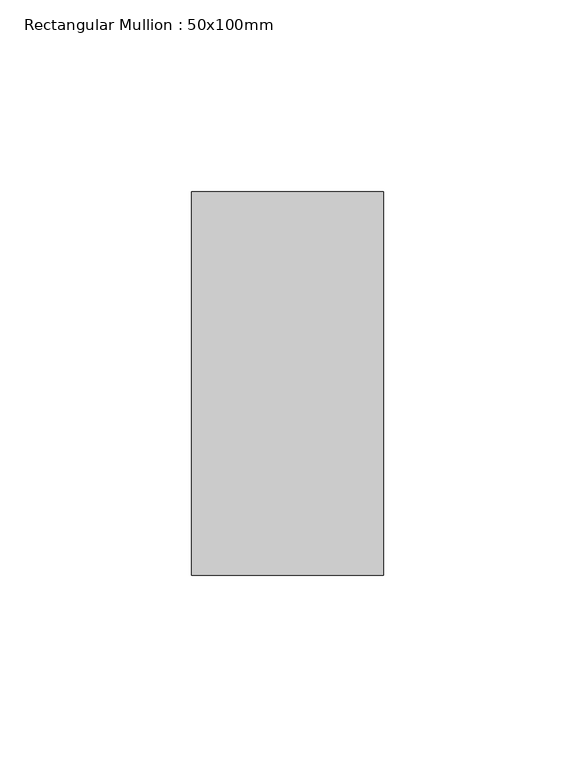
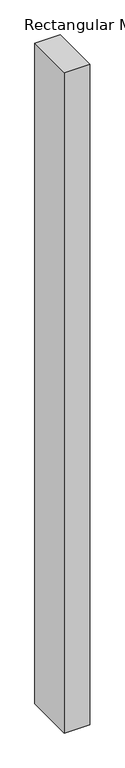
"""IFC4 building model written with IfcOpenShell, lengths in millimetres: member geometry, Rectangular Mullion : 50x100mm."""

import ifcopenshell
import ifcopenshell.guid

model = None  # the IFC model being written
_history = None  # IfcOwnerHistory: only IFC2X3 demands one
_inside = {}  # id of a spatial element -> (the spatial element, [elements in it])
_under = {}  # id of a project, library or spatial element -> (it, [spatial elements below it])
_declared = {}  # id of a project -> (the project, [libraries it declares])
_typed = {}  # id of a type object -> (the type object, [elements of that type])
_made_of = {}  # id of a material, layer set ... -> (it, [elements and type objects made of it])


def new_model(schema):
    """Start an empty IFC model of exactly this schema.

    Asked for "IFC4X3", IfcOpenShell would pick the latest addendum, in which some entities
    have other attributes; the version numbers below select the first issue.
    IFC2X3 requires an IfcOwnerHistory on every rooted entity: one is made here for all.
    """
    global model, _history
    if schema == "IFC4X3":
        model = ifcopenshell.file(schema_version=(4, 3, 0, 0))
    else:
        model = ifcopenshell.file(schema=schema)
    _inside.clear()
    _under.clear()
    _declared.clear()
    _typed.clear()
    _made_of.clear()
    _history = None
    if model.schema == "IFC2X3":
        org = make("IfcOrganization", Name="unknown")
        user = make(
            "IfcPersonAndOrganization",
            ThePerson=make("IfcPerson", FamilyName="unknown"),
            TheOrganization=org,
        )
        app = make(
            "IfcApplication",
            ApplicationDeveloper=org,
            Version="unknown",
            ApplicationFullName="unknown",
            ApplicationIdentifier="unknown",
        )
        _history = make(
            "IfcOwnerHistory",
            OwningUser=user,
            OwningApplication=app,
            ChangeAction="ADDED",
            CreationDate=0,
        )
    return model


def make(cls, **values):
    """One entity of the class cls with the attributes given. An attribute that is None is left unset."""
    return model.create_entity(
        cls, **{name: value for name, value in values.items() if value is not None}
    )


def rooted(cls, **values):
    """An entity with a GlobalId (a new one), such as an element, a storey or a relation."""
    return make(cls, GlobalId=ifcopenshell.guid.new(), OwnerHistory=_history, **values)


def si_unit(unit_type, name, prefix=None):
    """IfcSIUnit, for example si_unit("LENGTHUNIT", "METRE", prefix="MILLI")."""
    return make("IfcSIUnit", UnitType=unit_type, Prefix=prefix, Name=name)


def assignment(units):
    """IfcUnitAssignment: the units of a project."""
    return None if units is None else make("IfcUnitAssignment", Units=units)


def point(xyz):
    """IfcCartesianPoint."""
    return None if xyz is None else make("IfcCartesianPoint", Coordinates=xyz)


def direction(xyz):
    """IfcDirection."""
    return None if xyz is None else make("IfcDirection", DirectionRatios=xyz)


def frame(location, z_axis=None, x_axis=None):
    """IfcAxis2Placement3D, a coordinate frame: its origin and axes. An axis left out is left unset."""
    return make(
        "IfcAxis2Placement3D",
        Location=point(location),
        Axis=direction(z_axis),
        RefDirection=direction(x_axis),
    )


def origin():
    """The frame at (0, 0, 0) with its axes left unset."""
    return frame((0.0, 0.0, 0.0))


def place(relative_to, where):
    """IfcLocalPlacement: puts the frame where relative to a parent placement (None: the world)."""
    return make(
        "IfcLocalPlacement", PlacementRelTo=relative_to, RelativePlacement=where
    )


def context(
    kind, dimensions, precision=None, world=None, true_north=None, identifier=None
):
    """IfcGeometricRepresentationContext, for example the 3D "Model" context."""
    return make(
        "IfcGeometricRepresentationContext",
        ContextIdentifier=identifier,
        ContextType=kind,
        CoordinateSpaceDimension=dimensions,
        Precision=precision,
        WorldCoordinateSystem=world,
        TrueNorth=true_north,
    )


def project(units=None, contexts=None):
    """IfcProject with its units and contexts."""
    return rooted(
        "IfcProject",
        Name="project",
        RepresentationContexts=contexts,
        UnitsInContext=assignment(units),
    )


def spatial(cls, under=None, at=None, **own):
    """A site, building, storey or space (cls), placed at a placement, below another one or the project."""
    s = rooted(cls, ObjectPlacement=at, **own)
    if under is not None:
        _under.setdefault(under.id(), (under, []))[1].append(s)
    return s


def polyline(points):
    """IfcPolyline through the points."""
    return make("IfcPolyline", Points=[point(p) for p in points])


def outline(outer, holes=None, kind="AREA"):
    """IfcArbitraryClosedProfileDef: a profile drawn as a closed curve; with holes, ...WithVoids."""
    if holes is None:
        return make("IfcArbitraryClosedProfileDef", ProfileType=kind, OuterCurve=outer)
    return make(
        "IfcArbitraryProfileDefWithVoids",
        ProfileType=kind,
        OuterCurve=outer,
        InnerCurves=holes,
    )


def extrude(swept, where, along, depth):
    """IfcExtrudedAreaSolid: the profile swept, set in the frame where, extruded along a direction by depth."""
    return make(
        "IfcExtrudedAreaSolid",
        SweptArea=swept,
        Position=where,
        ExtrudedDirection=direction(along),
        Depth=depth,
    )


def shape(context_of_items, identifier, shape_type, items):
    """IfcShapeRepresentation: the items that make up one representation, for example the "Body"."""
    return make(
        "IfcShapeRepresentation",
        ContextOfItems=context_of_items,
        RepresentationIdentifier=identifier,
        RepresentationType=shape_type,
        Items=items,
    )


def source(mapping_origin, context_of_items, identifier, shape_type, items):
    """IfcRepresentationMap: a shape defined once, which mapped items show again and again."""
    return make(
        "IfcRepresentationMap",
        MappingOrigin=mapping_origin,
        MappedRepresentation=shape(context_of_items, identifier, shape_type, items),
    )


def transform(
    local_origin,
    x_axis=None,
    y_axis=None,
    z_axis=None,
    scale=None,
    scale2=None,
    scale3=None,
    uniform=True,
):
    """IfcCartesianTransformationOperator3D, or its non-uniform kind. x_axis, y_axis, z_axis: its Axis1, 2, 3."""
    if uniform:
        return make(
            "IfcCartesianTransformationOperator3D",
            Axis1=direction(x_axis),
            Axis2=direction(y_axis),
            LocalOrigin=point(local_origin),
            Scale=scale,
            Axis3=direction(z_axis),
        )
    return make(
        "IfcCartesianTransformationOperator3DnonUniform",
        Axis1=direction(x_axis),
        Axis2=direction(y_axis),
        LocalOrigin=point(local_origin),
        Scale=scale,
        Axis3=direction(z_axis),
        Scale2=scale2,
        Scale3=scale3,
    )


def mapped(mapping_source, mapping_target):
    """IfcMappedItem: shows the shape of a source again, moved by a transform."""
    return make(
        "IfcMappedItem", MappingSource=mapping_source, MappingTarget=mapping_target
    )


def made_of(thing, what):
    """Note that an element or type object is made of a material, layer set ...; save() writes the relation."""
    if what is not None:
        _made_of.setdefault(what.id(), (what, []))[1].append(thing)
    return thing


def element(
    cls,
    number,
    at=None,
    inside=None,
    cuts=None,
    type_object=None,
    material=None,
    context=None,
    identifier="Body",
    shape_type=None,
    held_by="IfcProductDefinitionShape",
    body=None,
    shapes=None,
    **own,
):
    """One element of the class cls, such as IfcWall. Its Tag is "e" and its number.

    at: its placement. inside: the storey or other place that contains it. cuts: it is an
    opening in that element (IfcRelVoidsElement). A single representation is given by context,
    identifier, shape_type and body (its items); several are given by shapes. held_by: the class
    of the entity that holds the representations. save() writes the other relations.
    """
    e = rooted(cls, Tag="e%d" % number, ObjectPlacement=at, **own)
    if body is not None:
        shapes = [shape(context, identifier, shape_type, body)]
    if shapes is not None:
        e.Representation = make(held_by, Representations=shapes)
    if inside is not None:
        _inside.setdefault(inside.id(), (inside, []))[1].append(e)
    if cuts is not None:
        rooted(
            "IfcRelVoidsElement", RelatingBuildingElement=cuts, RelatedOpeningElement=e
        )
    if type_object is not None:
        _typed.setdefault(type_object.id(), (type_object, []))[1].append(e)
    return made_of(e, material)


def aggregate(whole, parts):
    """IfcRelAggregates: a whole, such as a stair, and the parts it consists of."""
    return rooted("IfcRelAggregates", RelatingObject=whole, RelatedObjects=parts)


def save(model, path):
    """Write the relations noted so far, then the file.

    IfcRelAggregates (storeys below a building ...), IfcRelContainedInSpatialStructure (elements
    in a storey), IfcRelDefinesByType, IfcRelAssociatesMaterial and IfcRelDeclares: one each for
    every whole, place, type object, material and project.
    """
    for whole, parts in _under.values():
        aggregate(whole, parts)
    for where, things in _inside.values():
        rooted(
            "IfcRelContainedInSpatialStructure",
            RelatedElements=things,
            RelatingStructure=where,
        )
    for kind, things in _typed.values():
        rooted("IfcRelDefinesByType", RelatedObjects=things, RelatingType=kind)
    for what, things in _made_of.values():
        rooted("IfcRelAssociatesMaterial", RelatedObjects=things, RelatingMaterial=what)
    for by, libraries in _declared.values():
        rooted("IfcRelDeclares", RelatingContext=by, RelatedDefinitions=libraries)
    model.write(path)


def rectangular_mullion_50x100mm_efb45158(model_context):
    return source(origin(), model_context, "Body", "SweptSolid", [
        extrude(outline(polyline([(25.0, 50.0), (25.0, -50.0), (-25.0, -50.0), (-25.0, 50.0), (25.0, 50.0)])), frame((0.0, 0.0, -1369.5572956), z_axis=(0.0, 0.0, 1.0), x_axis=(1.0, 0.0, 0.0)), (0.0, 0.0, 1.0), 1369.5572956),
    ])


if __name__ == "__main__":
    model = new_model("IFC4")
    model_context = context("Model", 3, world=origin())
    ifc_project = project(units=[si_unit("LENGTHUNIT", "METRE", prefix="MILLI")], contexts=[model_context])
    site = spatial("IfcSite", under=ifc_project)
    building = spatial("IfcBuilding", under=site)
    placement = place(None, origin())
    rectangular_mullion_50x100mm_shape = rectangular_mullion_50x100mm_efb45158(model_context)
    element("IfcMember", 1, ObjectType="Rectangular Mullion : 50x100mm", at=placement, inside=building, context=model_context, shape_type="MappedRepresentation", body=[
        mapped(rectangular_mullion_50x100mm_shape, transform((0.0, 0.0, 0.0), x_axis=(1.0, 0.0, 0.0), y_axis=(0.0, 1.0, 0.0), z_axis=(0.0, 0.0, 1.0))),
    ])
    save(model, "model.ifc")
